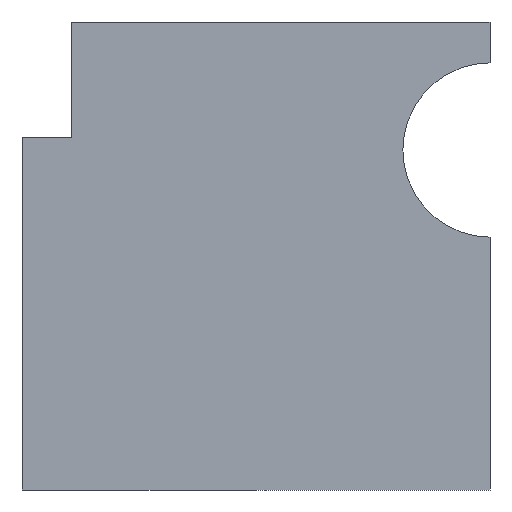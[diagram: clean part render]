
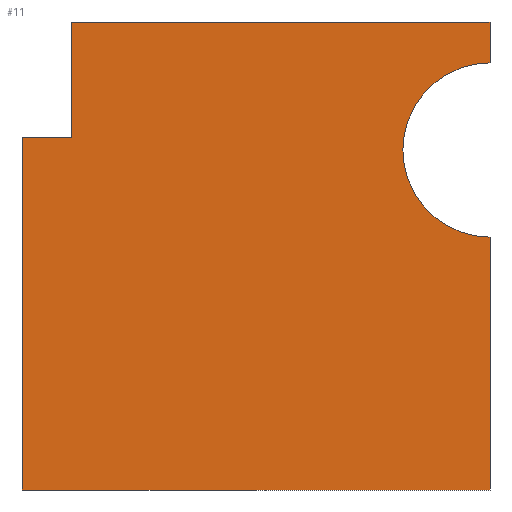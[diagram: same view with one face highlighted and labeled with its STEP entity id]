
A CAD part, left-side view. The second image highlights one B-rep face of the part: STEP entity #11.
In plain terms, the highlighted planar face has unit normal (-1, 0, 0).
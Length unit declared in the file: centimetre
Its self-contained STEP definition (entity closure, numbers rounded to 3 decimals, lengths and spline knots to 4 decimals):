
#3 = VECTOR ( 'NONE', #357, 100. ) ;
#8 = DIRECTION ( 'NONE',  ( 0., -1., 0. ) ) ;
#11 = ADVANCED_FACE ( 'NONE', ( #102 ), #235, .F. ) ;
#12 = ORIENTED_EDGE ( 'NONE', *, *, #239, .T. ) ;
#16 = VERTEX_POINT ( 'NONE', #94 ) ;
#20 = VERTEX_POINT ( 'NONE', #312 ) ;
#31 = VECTOR ( 'NONE', #103, 100. ) ;
#34 = DIRECTION ( 'NONE',  ( 1., 0., 0. ) ) ;
#37 = VECTOR ( 'NONE', #112, 100. ) ;
#43 = CARTESIAN_POINT ( 'NONE',  ( 0., 1000., 1000. ) ) ;
#52 = LINE ( 'NONE', #324, #3 ) ;
#53 = ORIENTED_EDGE ( 'NONE', *, *, #226, .F. ) ;
#67 = CARTESIAN_POINT ( 'NONE',  ( 0., 1000., 1000. ) ) ;
#78 = VECTOR ( 'NONE', #285, 100. ) ;
#91 = DIRECTION ( 'NONE',  ( 0., 0., -1. ) ) ;
#94 = CARTESIAN_POINT ( 'NONE',  ( 0., 0., 1000. ) ) ;
#102 = FACE_OUTER_BOUND ( 'NONE', #255, .T. ) ;
#103 = DIRECTION ( 'NONE',  ( 0., -1., 0. ) ) ;
#104 = EDGE_CURVE ( 'NONE', #272, #16, #265, .T. ) ;
#108 = ORIENTED_EDGE ( 'NONE', *, *, #258, .F. ) ;
#112 = DIRECTION ( 'NONE',  ( 0., 0., -1. ) ) ;
#115 = CARTESIAN_POINT ( 'NONE',  ( 0., 894.6699, 753.0674 ) ) ;
#134 = EDGE_CURVE ( 'NONE', #304, #182, #362, .T. ) ;
#138 = CARTESIAN_POINT ( 'NONE',  ( 0., 0., 1000. ) ) ;
#142 = ORIENTED_EDGE ( 'NONE', *, *, #251, .T. ) ;
#159 = DIRECTION ( 'NONE',  ( 1., 0., 0. ) ) ;
#164 = LINE ( 'NONE', #138, #37 ) ;
#166 = DIRECTION ( 'NONE',  ( 0., 1., 0. ) ) ;
#167 = ORIENTED_EDGE ( 'NONE', *, *, #173, .T. ) ;
#173 = EDGE_CURVE ( 'NONE', #272, #330, #311, .T. ) ;
#181 = DIRECTION ( 'NONE',  ( 0., 0., -1. ) ) ;
#182 = VERTEX_POINT ( 'NONE', #260 ) ;
#183 = EDGE_CURVE ( 'NONE', #256, #369, #233, .T. ) ;
#190 = CARTESIAN_POINT ( 'NONE',  ( 0., 894.6699, 1000. ) ) ;
#200 = AXIS2_PLACEMENT_3D ( 'NONE', #213, #159, #341 ) ;
#213 = CARTESIAN_POINT ( 'NONE',  ( 0., 1000., 1000. ) ) ;
#226 = EDGE_CURVE ( 'NONE', #16, #182, #164, .T. ) ;
#232 = AXIS2_PLACEMENT_3D ( 'NONE', #317, #34, #181 ) ;
#233 = LINE ( 'NONE', #67, #78 ) ;
#235 = PLANE ( 'NONE',  #200 ) ;
#239 = EDGE_CURVE ( 'NONE', #330, #256, #360, .T. ) ;
#248 = VECTOR ( 'NONE', #91, 100. ) ;
#249 = ORIENTED_EDGE ( 'NONE', *, *, #104, .F. ) ;
#251 = EDGE_CURVE ( 'NONE', #369, #20, #274, .T. ) ;
#252 = CARTESIAN_POINT ( 'NONE',  ( 0., 0., 540.3382 ) ) ;
#255 = EDGE_LOOP ( 'NONE', ( #167, #12, #268, #142, #108, #332, #53, #249 ) ) ;
#256 = VERTEX_POINT ( 'NONE', #350 ) ;
#257 = VECTOR ( 'NONE', #166, 100. ) ;
#258 = EDGE_CURVE ( 'NONE', #304, #20, #52, .T. ) ;
#260 = CARTESIAN_POINT ( 'NONE',  ( 0., 0., 912.7054 ) ) ;
#265 = LINE ( 'NONE', #43, #306 ) ;
#268 = ORIENTED_EDGE ( 'NONE', *, *, #183, .T. ) ;
#272 = VERTEX_POINT ( 'NONE', #190 ) ;
#274 = LINE ( 'NONE', #351, #31 ) ;
#285 = DIRECTION ( 'NONE',  ( 0., 0., -1. ) ) ;
#298 = CARTESIAN_POINT ( 'NONE',  ( 0., 1000., 0. ) ) ;
#302 = CARTESIAN_POINT ( 'NONE',  ( 0., 894.6699, 753.0674 ) ) ;
#304 = VERTEX_POINT ( 'NONE', #252 ) ;
#306 = VECTOR ( 'NONE', #8, 100. ) ;
#311 = LINE ( 'NONE', #336, #248 ) ;
#312 = CARTESIAN_POINT ( 'NONE',  ( 0., 0., 0. ) ) ;
#317 = CARTESIAN_POINT ( 'NONE',  ( 0., 0., 726.5218 ) ) ;
#324 = CARTESIAN_POINT ( 'NONE',  ( 0., 0., 1000. ) ) ;
#330 = VERTEX_POINT ( 'NONE', #115 ) ;
#332 = ORIENTED_EDGE ( 'NONE', *, *, #134, .T. ) ;
#336 = CARTESIAN_POINT ( 'NONE',  ( 0., 894.6699, 753.0674 ) ) ;
#341 = DIRECTION ( 'NONE',  ( 0., 0., -1. ) ) ;
#350 = CARTESIAN_POINT ( 'NONE',  ( 0., 1000., 753.0674 ) ) ;
#351 = CARTESIAN_POINT ( 'NONE',  ( 0., 1000., 0. ) ) ;
#357 = DIRECTION ( 'NONE',  ( 0., 0., -1. ) ) ;
#360 = LINE ( 'NONE', #302, #257 ) ;
#362 = CIRCLE ( 'NONE', #232, 186.1836 ) ;
#369 = VERTEX_POINT ( 'NONE', #298 ) ;
